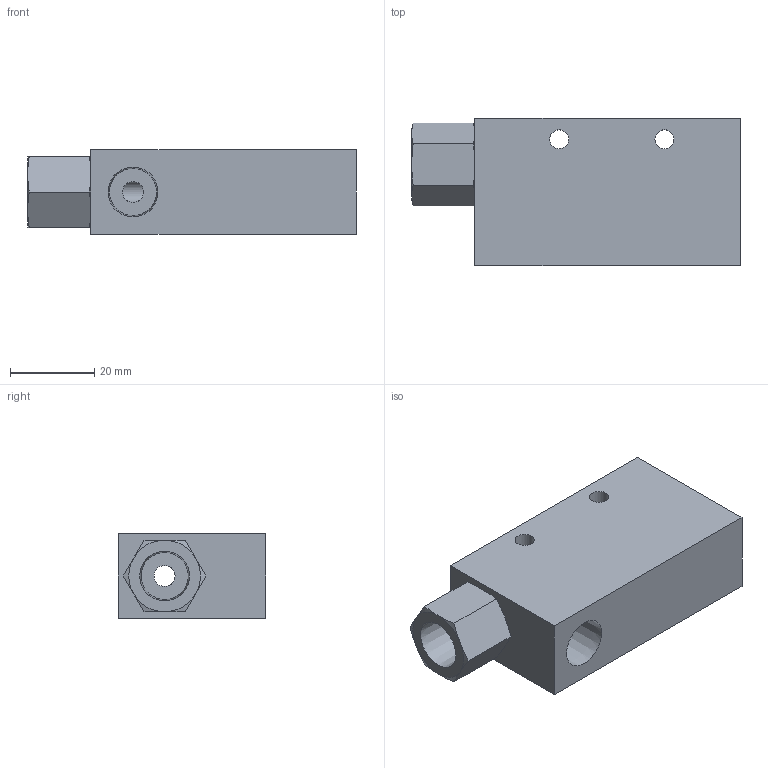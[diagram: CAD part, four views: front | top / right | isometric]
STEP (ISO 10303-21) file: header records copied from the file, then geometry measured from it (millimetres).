
FILE_DESCRIPTION(('STEP AP203'),'1');
FILE_NAME('BCV-15HSNS_3D.stp','2024-06-22T05:47:14',(' '),(' '),'Spatial InterOp 3D',' ',' ');
FILE_SCHEMA(('CONFIG_CONTROL_DESIGN'));
Length unit declared in the file: millimetre
Products named in the file (1): 1
Bounding box: 78 x 35 x 20 mm (x, y, z)
Volume: 42461.9 mm3; surface area: 11843.3 mm2
Topology: 1 solids, 1 shells, 36 faces, 82 edges, 50 vertices
Faces by surface type: cone 16, plane 15, cylinder 5
Full cylindrical faces by diameter (mm): 4.5 x2, 5 x2, 11.776 x1
Entity records: 1002 total; most frequent: CARTESIAN_POINT 211, DIRECTION 148, ORIENTED_EDGE 140, EDGE_CURVE 70, AXIS2_PLACEMENT_3D 65, EDGE_LOOP 56, VERTEX_POINT 48, FACE_OUTER_BOUND 41
